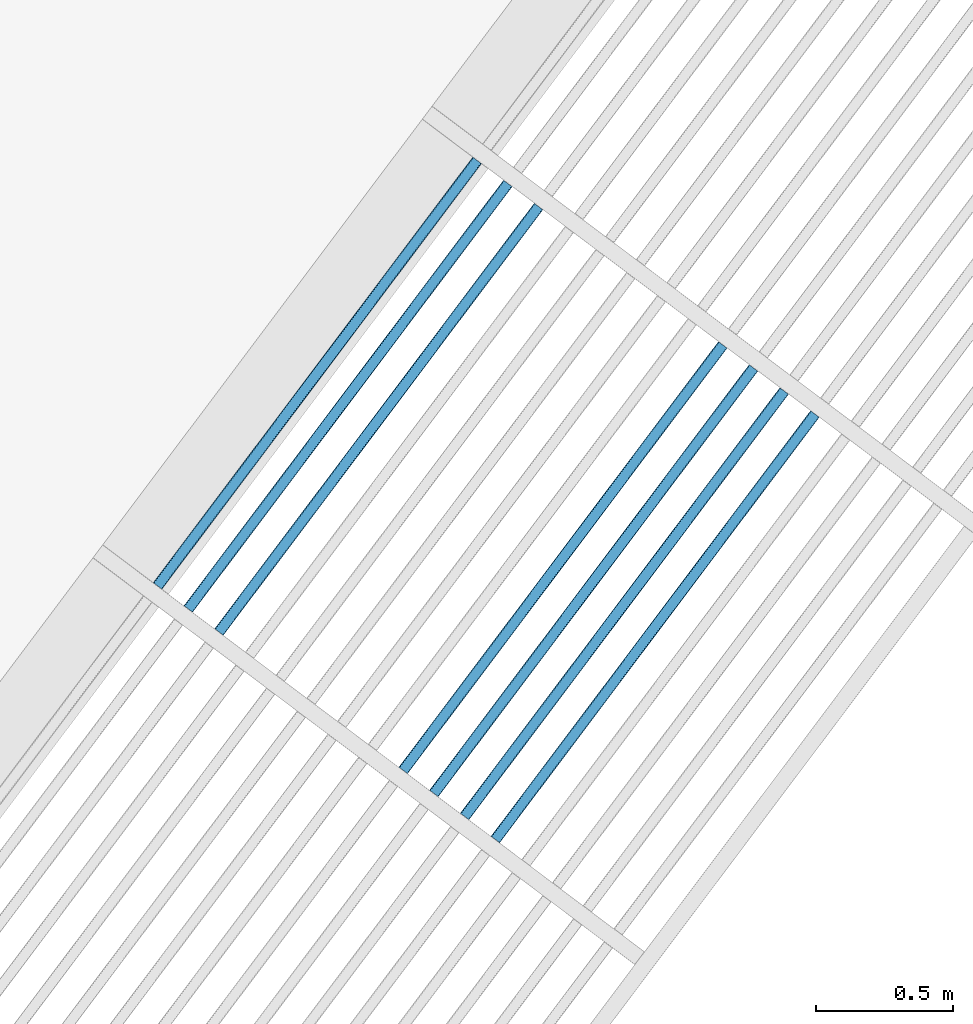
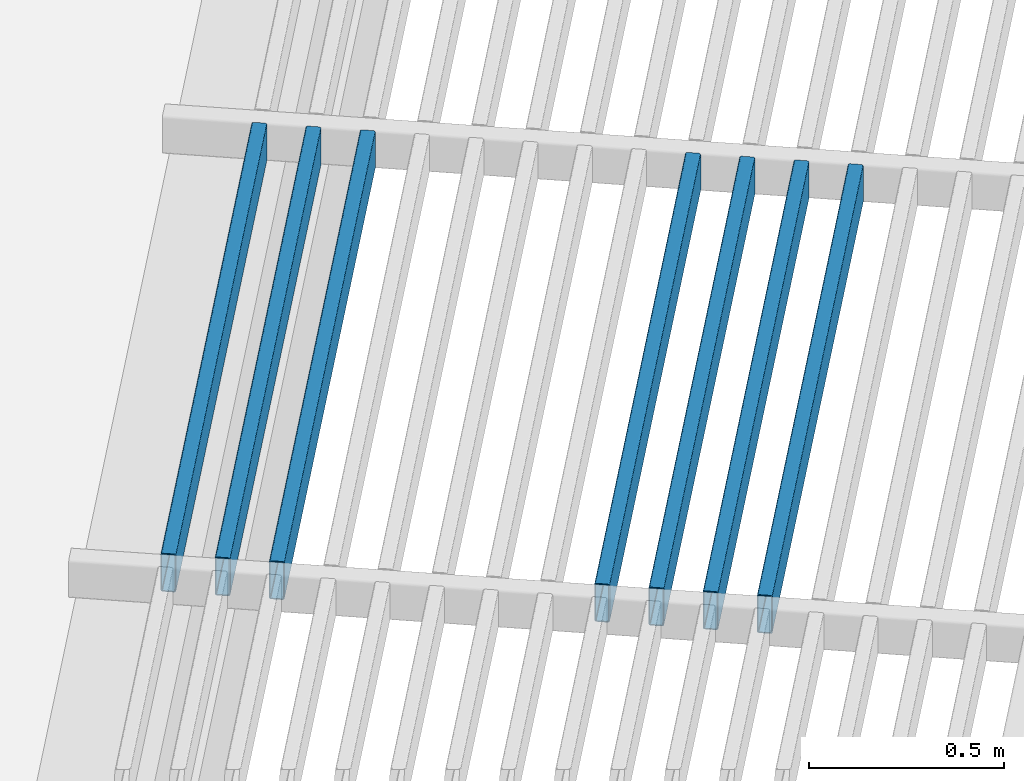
# One storey, part 30 of 95: 7 beams.
"""IFC2X3 building model written with IfcOpenShell, lengths in metres."""

from ifc_helpers import new_model, entity, si_unit, converted_unit, derived_unit, direction, frame, frame_2d, origin, place, context, subcontext, project, spatial, polyline, circle_curve, parameter, trimmed, segment, composite_curve, outline, extrude, material, type_object, element, save


model = new_model("IFC2X3")

# Units and contexts
model_context = context("Model", 3, precision=1e-05, world=origin(), true_north=direction((6.123031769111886e-17, 1.0)))
body_context = subcontext(model_context, "Body", "Model", "MODEL_VIEW")
ifc_project = project(units=[si_unit("LENGTHUNIT", "METRE"), si_unit("AREAUNIT", "SQUARE_METRE"), si_unit("VOLUMEUNIT", "CUBIC_METRE"), converted_unit("PLANEANGLEUNIT", "DEGREE", entity("IfcRatioMeasure", 0.017453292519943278), si_unit("PLANEANGLEUNIT", "RADIAN"), dimensions=[0, 0, 0, 0, 0, 0, 0]), si_unit("MASSUNIT", "GRAM", prefix="KILO"), derived_unit("MASSDENSITYUNIT", [(si_unit("MASSUNIT", "GRAM", prefix="KILO"), 1), (si_unit("LENGTHUNIT", "METRE"), -3)]), derived_unit("IONCONCENTRATIONUNIT", [(si_unit("MASSUNIT", "GRAM", prefix="KILO"), 1), (si_unit("LENGTHUNIT", "METRE"), -3)]), derived_unit("MOMENTOFINERTIAUNIT", [(si_unit("LENGTHUNIT", "METRE"), 4)]), si_unit("TIMEUNIT", "SECOND"), si_unit("FREQUENCYUNIT", "HERTZ"), si_unit("THERMODYNAMICTEMPERATUREUNIT", "DEGREE_CELSIUS"), derived_unit("THERMALTRANSMITTANCEUNIT", [(si_unit("MASSUNIT", "GRAM", prefix="KILO"), 1), (si_unit("THERMODYNAMICTEMPERATUREUNIT", "KELVIN"), -1), (si_unit("TIMEUNIT", "SECOND"), -3)]), derived_unit("THERMALCONDUCTANCEUNIT", [(si_unit("MASSUNIT", "GRAM", prefix="KILO"), 1), (si_unit("THERMODYNAMICTEMPERATUREUNIT", "KELVIN"), -1), (si_unit("TIMEUNIT", "SECOND"), -3), (si_unit("LENGTHUNIT", "METRE"), 1)]), derived_unit("VOLUMETRICFLOWRATEUNIT", [(si_unit("LENGTHUNIT", "METRE"), 3), (si_unit("TIMEUNIT", "SECOND"), -1)]), derived_unit("MASSFLOWRATEUNIT", [(si_unit("MASSUNIT", "GRAM", prefix="KILO"), 1), (si_unit("TIMEUNIT", "SECOND"), -1)]), derived_unit("ROTATIONALFREQUENCYUNIT", [(si_unit("TIMEUNIT", "SECOND"), -1)]), si_unit("ELECTRICCURRENTUNIT", "AMPERE"), si_unit("ELECTRICVOLTAGEUNIT", "VOLT"), si_unit("POWERUNIT", "WATT"), si_unit("FORCEUNIT", "NEWTON", prefix="KILO"), si_unit("ILLUMINANCEUNIT", "LUX"), si_unit("LUMINOUSFLUXUNIT", "LUMEN"), si_unit("LUMINOUSINTENSITYUNIT", "CANDELA"), derived_unit("USERDEFINED", [(si_unit("MASSUNIT", "GRAM", prefix="KILO"), -1), (si_unit("LENGTHUNIT", "METRE"), -2), (si_unit("TIMEUNIT", "SECOND"), 3), (si_unit("LUMINOUSFLUXUNIT", "LUMEN"), 1)]), derived_unit("USERDEFINED", [(si_unit("MASSUNIT", "GRAM", prefix="KILO"), 1), (si_unit("TIMEUNIT", "SECOND"), -3), (si_unit("LENGTHUNIT", "METRE"), 3), (si_unit("ELECTRICCURRENTUNIT", "AMPERE"), -2)]), derived_unit("SOUNDPOWERUNIT", [(si_unit("MASSUNIT", "GRAM", prefix="KILO"), 1), (si_unit("TIMEUNIT", "SECOND"), -3), (si_unit("LENGTHUNIT", "METRE"), 2)]), derived_unit("SOUNDPRESSUREUNIT", [(si_unit("MASSUNIT", "GRAM", prefix="KILO"), 1), (si_unit("LENGTHUNIT", "METRE"), -1), (si_unit("TIMEUNIT", "SECOND"), -2)]), derived_unit("LINEARVELOCITYUNIT", [(si_unit("LENGTHUNIT", "METRE"), 1), (si_unit("TIMEUNIT", "SECOND"), -1)]), si_unit("PRESSUREUNIT", "PASCAL"), derived_unit("USERDEFINED", [(si_unit("MASSUNIT", "GRAM", prefix="KILO"), 1), (si_unit("LENGTHUNIT", "METRE"), -2), (si_unit("TIMEUNIT", "SECOND"), -2)]), derived_unit("LINEARFORCEUNIT", [(si_unit("MASSUNIT", "GRAM", prefix="KILO"), 1), (si_unit("TIMEUNIT", "SECOND"), -2)]), derived_unit("PLANARFORCEUNIT", [(si_unit("MASSUNIT", "GRAM", prefix="KILO"), 1), (si_unit("LENGTHUNIT", "METRE"), -1), (si_unit("TIMEUNIT", "SECOND"), -2)]), derived_unit("SPECIFICHEATCAPACITYUNIT", [(si_unit("THERMODYNAMICTEMPERATUREUNIT", "KELVIN"), -1), (si_unit("LENGTHUNIT", "METRE"), 2), (si_unit("TIMEUNIT", "SECOND"), -2)]), derived_unit("HEATINGVALUEUNIT", [(si_unit("LENGTHUNIT", "METRE"), 2), (si_unit("TIMEUNIT", "SECOND"), -2)]), derived_unit("VAPORPERMEABILITYUNIT", [(si_unit("LENGTHUNIT", "METRE"), -1), (si_unit("TIMEUNIT", "SECOND"), 1)]), derived_unit("DYNAMICVISCOSITYUNIT", [(si_unit("MASSUNIT", "GRAM", prefix="KILO"), 1), (si_unit("TIMEUNIT", "SECOND"), -1), (si_unit("LENGTHUNIT", "METRE"), -1)]), derived_unit("THERMALEXPANSIONCOEFFICIENTUNIT", [(si_unit("THERMODYNAMICTEMPERATUREUNIT", "KELVIN"), -1)]), derived_unit("MODULUSOFELASTICITYUNIT", [(si_unit("MASSUNIT", "GRAM", prefix="KILO"), 1), (si_unit("LENGTHUNIT", "METRE"), -1), (si_unit("TIMEUNIT", "SECOND"), -2)]), derived_unit("ISOTHERMALMOISTURECAPACITYUNIT", [(si_unit("LENGTHUNIT", "METRE"), 3), (si_unit("MASSUNIT", "GRAM", prefix="KILO"), -1)]), derived_unit("MOISTUREDIFFUSIVITYUNIT", [(si_unit("TIMEUNIT", "SECOND"), -1), (si_unit("LENGTHUNIT", "METRE"), 2)])], contexts=[model_context])

# Site, building, storey
site_placement = place(None, origin())
site = spatial("IfcSite", under=ifc_project, at=site_placement, Name="Default", CompositionType="ELEMENT")
building_placement = place(site_placement, frame((0.0, 0.0, 235.0), z_axis=(0.0, 0.0, 1.0), x_axis=(-0.7996477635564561, 0.6004693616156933, 0.0)))
building = spatial("IfcBuilding", under=site, at=building_placement, CompositionType="ELEMENT")
storey_placement = place(building_placement, frame((0.0, 0.0, 3.400000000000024)))
storey = spatial("IfcBuildingStorey", under=building, at=storey_placement, Name="PC- Coberta STR", CompositionType="ELEMENT", Elevation=3.400000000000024)

# Beams
ifc_material = material(Name="_Acer- STR")
beam_type = type_object("IfcBeamType", Name="STR- V- Acer- RHS- Rectangular- T1:120x40RHS -", PredefinedType="NOTDEFINED")
beam_1_placement = place(storey_placement, frame((28.373552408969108, -32.38519175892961, 0.49840472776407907), z_axis=(0.0, 0.0, 1.0), x_axis=(0.0, -1.0, 0.0)))
element("IfcBeam", 1, at=beam_1_placement, inside=storey, type_object=beam_type, material=ifc_material, Name="STR- V- Acer- RHS- Rectangular- T1:120x40RHS -", ObjectType="STR- V- Acer- RHS- Rectangular- T1:120x40RHS -", context=body_context, shape_type="SweptSolid", body=[
    extrude(outline(composite_curve([segment(trimmed(circle_curve(frame_2d((-0.013999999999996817, -0.05400000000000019), x_axis=(1.0, 0.0)), 0.006), [parameter(180.0000000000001)], [parameter(269.99999999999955)], True, "PARAMETER"), True, "CONTINUOUS"), segment(polyline([(-0.014000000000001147, -0.06000000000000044), (0.01400000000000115, -0.06000000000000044)]), True, "CONTINUOUS"), segment(trimmed(circle_curve(frame_2d((0.01400000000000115, -0.05400000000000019), x_axis=(1.0, 0.0)), 0.006), [parameter(269.99999999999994)], [parameter(1.0177774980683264e-13)], True, "PARAMETER"), True, "CONTINUOUS"), segment(polyline([(0.019999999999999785, -0.05400000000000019), (0.019999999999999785, 0.05399999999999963)]), True, "CONTINUOUS"), segment(trimmed(circle_curve(frame_2d((0.01400000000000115, 0.05399999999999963), x_axis=(1.0, 0.0)), 0.006), [parameter(359.9999999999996)], [parameter(89.99999999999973)], True, "PARAMETER"), True, "CONTINUOUS"), segment(polyline([(0.01400000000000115, 0.05999999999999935), (-0.014000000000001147, 0.05999999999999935)]), True, "CONTINUOUS"), segment(trimmed(circle_curve(frame_2d((-0.013999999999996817, 0.05399999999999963), x_axis=(1.0, 0.0)), 0.006), [parameter(90.00000000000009)], [parameter(180.00000000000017)], True, "PARAMETER"), True, "CONTINUOUS"), segment(polyline([(-0.019999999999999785, 0.05399999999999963), (-0.019999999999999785, -0.05400000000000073)]), True, "CONTINUOUS")], self_intersect=False), holes=[composite_curve([segment(polyline([(0.01400000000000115, -0.05700000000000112), (-0.014000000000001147, -0.05700000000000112)]), True, "CONTINUOUS"), segment(trimmed(circle_curve(frame_2d((-0.013999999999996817, -0.05400000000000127), x_axis=(1.0, 0.0)), 0.003), [parameter(179.99999999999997)], [parameter(269.9999999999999)], True, "PARAMETER"), False, "CONTINUOUS"), segment(polyline([(-0.01700000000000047, -0.05400000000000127), (-0.01700000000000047, 0.05399999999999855)]), True, "CONTINUOUS"), segment(trimmed(circle_curve(frame_2d((-0.013999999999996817, 0.05399999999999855), x_axis=(1.0, 0.0)), 0.003), [parameter(90.00000000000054)], [parameter(180.0000000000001)], True, "PARAMETER"), False, "CONTINUOUS"), segment(polyline([(-0.014000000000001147, 0.05699999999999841), (0.01400000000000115, 0.05699999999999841)]), True, "CONTINUOUS"), segment(trimmed(circle_curve(frame_2d((0.01400000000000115, 0.05399999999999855), x_axis=(1.0, 0.0)), 0.003), [parameter(0.0)], [parameter(90.00000000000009)], True, "PARAMETER"), False, "CONTINUOUS"), segment(polyline([(0.017000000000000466, 0.05399999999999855), (0.017000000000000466, -0.05400000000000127)]), True, "CONTINUOUS"), segment(trimmed(circle_curve(frame_2d((0.01400000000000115, -0.05400000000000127), x_axis=(1.0, 0.0)), 0.003), [parameter(270.00000000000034)], [parameter(3.053332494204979e-13)], True, "PARAMETER"), False, "CONTINUOUS")], self_intersect=False)]), frame((-1.9399999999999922, 0.021595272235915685, 0.06159527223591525), z_axis=(1.0, 0.0, 0.0), x_axis=(0.0, -1.0, 0.0)), (0.0, 0.0, 1.0), 1.9399999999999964),
])
beam_2_placement = place(storey_placement, frame((28.233552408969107, -32.38519175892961, 0.49840472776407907), z_axis=(0.0, 0.0, 1.0), x_axis=(0.0, -1.0, 0.0)))
element("IfcBeam", 2, at=beam_2_placement, inside=storey, type_object=beam_type, material=ifc_material, Name="STR- V- Acer- RHS- Rectangular- T1:120x40RHS -", ObjectType="STR- V- Acer- RHS- Rectangular- T1:120x40RHS -", context=body_context, shape_type="SweptSolid", body=[
    extrude(outline(composite_curve([segment(trimmed(circle_curve(frame_2d((-0.013999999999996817, -0.05400000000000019), x_axis=(1.0, 0.0)), 0.006), [parameter(180.0000000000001)], [parameter(269.99999999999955)], True, "PARAMETER"), True, "CONTINUOUS"), segment(polyline([(-0.014000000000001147, -0.06000000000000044), (0.01400000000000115, -0.06000000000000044)]), True, "CONTINUOUS"), segment(trimmed(circle_curve(frame_2d((0.01400000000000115, -0.05400000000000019), x_axis=(1.0, 0.0)), 0.006), [parameter(269.99999999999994)], [parameter(1.0177774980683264e-13)], True, "PARAMETER"), True, "CONTINUOUS"), segment(polyline([(0.019999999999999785, -0.05400000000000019), (0.019999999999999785, 0.05399999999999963)]), True, "CONTINUOUS"), segment(trimmed(circle_curve(frame_2d((0.01400000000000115, 0.05399999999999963), x_axis=(1.0, 0.0)), 0.006), [parameter(359.9999999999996)], [parameter(89.99999999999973)], True, "PARAMETER"), True, "CONTINUOUS"), segment(polyline([(0.01400000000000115, 0.05999999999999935), (-0.014000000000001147, 0.05999999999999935)]), True, "CONTINUOUS"), segment(trimmed(circle_curve(frame_2d((-0.013999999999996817, 0.05399999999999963), x_axis=(1.0, 0.0)), 0.006), [parameter(90.00000000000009)], [parameter(180.00000000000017)], True, "PARAMETER"), True, "CONTINUOUS"), segment(polyline([(-0.019999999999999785, 0.05399999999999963), (-0.019999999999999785, -0.05400000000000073)]), True, "CONTINUOUS")], self_intersect=False), holes=[composite_curve([segment(polyline([(0.01400000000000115, -0.05700000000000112), (-0.014000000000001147, -0.05700000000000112)]), True, "CONTINUOUS"), segment(trimmed(circle_curve(frame_2d((-0.013999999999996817, -0.05400000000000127), x_axis=(1.0, 0.0)), 0.003), [parameter(179.99999999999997)], [parameter(269.9999999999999)], True, "PARAMETER"), False, "CONTINUOUS"), segment(polyline([(-0.01700000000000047, -0.05400000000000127), (-0.01700000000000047, 0.05399999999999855)]), True, "CONTINUOUS"), segment(trimmed(circle_curve(frame_2d((-0.013999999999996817, 0.05399999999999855), x_axis=(1.0, 0.0)), 0.003), [parameter(90.00000000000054)], [parameter(180.0000000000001)], True, "PARAMETER"), False, "CONTINUOUS"), segment(polyline([(-0.014000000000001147, 0.05699999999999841), (0.01400000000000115, 0.05699999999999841)]), True, "CONTINUOUS"), segment(trimmed(circle_curve(frame_2d((0.01400000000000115, 0.05399999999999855), x_axis=(1.0, 0.0)), 0.003), [parameter(0.0)], [parameter(90.00000000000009)], True, "PARAMETER"), False, "CONTINUOUS"), segment(polyline([(0.017000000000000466, 0.05399999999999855), (0.017000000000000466, -0.05400000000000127)]), True, "CONTINUOUS"), segment(trimmed(circle_curve(frame_2d((0.01400000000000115, -0.05400000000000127), x_axis=(1.0, 0.0)), 0.003), [parameter(270.00000000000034)], [parameter(3.053332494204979e-13)], True, "PARAMETER"), False, "CONTINUOUS")], self_intersect=False)]), frame((-1.9399999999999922, 0.021595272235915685, 0.06159527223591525), z_axis=(1.0, 0.0, 0.0), x_axis=(0.0, -1.0, 0.0)), (0.0, 0.0, 1.0), 1.9399999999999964),
])
beam_3_placement = place(storey_placement, frame((28.09355240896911, -32.38519175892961, 0.49840472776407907), z_axis=(0.0, 0.0, 1.0), x_axis=(0.0, -1.0, 0.0)))
element("IfcBeam", 3, at=beam_3_placement, inside=storey, type_object=beam_type, material=ifc_material, Name="STR- V- Acer- RHS- Rectangular- T1:120x40RHS -", ObjectType="STR- V- Acer- RHS- Rectangular- T1:120x40RHS -", context=body_context, shape_type="SweptSolid", body=[
    extrude(outline(composite_curve([segment(trimmed(circle_curve(frame_2d((-0.01400000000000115, -0.05400000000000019), x_axis=(1.0, 0.0)), 0.006), [parameter(180.0000000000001)], [parameter(269.99999999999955)], True, "PARAMETER"), True, "CONTINUOUS"), segment(polyline([(-0.01400000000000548, -0.06000000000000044), (0.013999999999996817, -0.06000000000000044)]), True, "CONTINUOUS"), segment(trimmed(circle_curve(frame_2d((0.013999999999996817, -0.05400000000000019), x_axis=(1.0, 0.0)), 0.006), [parameter(269.99999999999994)], [parameter(1.0177774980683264e-13)], True, "PARAMETER"), True, "CONTINUOUS"), segment(polyline([(0.019999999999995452, -0.05400000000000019), (0.019999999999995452, 0.05399999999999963)]), True, "CONTINUOUS"), segment(trimmed(circle_curve(frame_2d((0.013999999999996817, 0.05399999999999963), x_axis=(1.0, 0.0)), 0.006), [parameter(359.9999999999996)], [parameter(89.99999999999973)], True, "PARAMETER"), True, "CONTINUOUS"), segment(polyline([(0.013999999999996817, 0.05999999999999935), (-0.01400000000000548, 0.05999999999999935)]), True, "CONTINUOUS"), segment(trimmed(circle_curve(frame_2d((-0.01400000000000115, 0.05399999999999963), x_axis=(1.0, 0.0)), 0.006), [parameter(90.00000000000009)], [parameter(180.00000000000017)], True, "PARAMETER"), True, "CONTINUOUS"), segment(polyline([(-0.02000000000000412, 0.05399999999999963), (-0.02000000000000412, -0.05400000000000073)]), True, "CONTINUOUS")], self_intersect=False), holes=[composite_curve([segment(polyline([(0.013999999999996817, -0.05700000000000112), (-0.01400000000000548, -0.05700000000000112)]), True, "CONTINUOUS"), segment(trimmed(circle_curve(frame_2d((-0.01400000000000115, -0.05400000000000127), x_axis=(1.0, 0.0)), 0.003), [parameter(179.99999999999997)], [parameter(269.9999999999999)], True, "PARAMETER"), False, "CONTINUOUS"), segment(polyline([(-0.017000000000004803, -0.05400000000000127), (-0.017000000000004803, 0.05399999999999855)]), True, "CONTINUOUS"), segment(trimmed(circle_curve(frame_2d((-0.01400000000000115, 0.05399999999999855), x_axis=(1.0, 0.0)), 0.003), [parameter(90.00000000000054)], [parameter(180.0000000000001)], True, "PARAMETER"), False, "CONTINUOUS"), segment(polyline([(-0.01400000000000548, 0.05699999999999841), (0.013999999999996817, 0.05699999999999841)]), True, "CONTINUOUS"), segment(trimmed(circle_curve(frame_2d((0.013999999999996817, 0.05399999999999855), x_axis=(1.0, 0.0)), 0.003), [parameter(0.0)], [parameter(90.00000000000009)], True, "PARAMETER"), False, "CONTINUOUS"), segment(polyline([(0.016999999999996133, 0.05399999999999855), (0.016999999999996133, -0.05400000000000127)]), True, "CONTINUOUS"), segment(trimmed(circle_curve(frame_2d((0.013999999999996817, -0.05400000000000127), x_axis=(1.0, 0.0)), 0.003), [parameter(270.00000000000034)], [parameter(3.053332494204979e-13)], True, "PARAMETER"), False, "CONTINUOUS")], self_intersect=False)]), frame((-1.9399999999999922, 0.02159527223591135, 0.06159527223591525), z_axis=(1.0, 0.0, 0.0), x_axis=(0.0, -1.0, 0.0)), (0.0, 0.0, 1.0), 1.9399999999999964),
])
beam_4_placement = place(storey_placement, frame((27.25355240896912, -32.38519175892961, 0.49840472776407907), z_axis=(0.0, 0.0, 1.0), x_axis=(0.0, -1.0, 0.0)))
element("IfcBeam", 4, at=beam_4_placement, inside=storey, type_object=beam_type, material=ifc_material, Name="STR- V- Acer- RHS- Rectangular- T1:120x40RHS -", ObjectType="STR- V- Acer- RHS- Rectangular- T1:120x40RHS -", context=body_context, shape_type="SweptSolid", body=[
    extrude(outline(composite_curve([segment(trimmed(circle_curve(frame_2d((-0.013999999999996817, -0.05400000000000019), x_axis=(1.0, 0.0)), 0.006), [parameter(180.0000000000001)], [parameter(269.99999999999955)], True, "PARAMETER"), True, "CONTINUOUS"), segment(polyline([(-0.014000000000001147, -0.06000000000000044), (0.01400000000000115, -0.06000000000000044)]), True, "CONTINUOUS"), segment(trimmed(circle_curve(frame_2d((0.01400000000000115, -0.05400000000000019), x_axis=(1.0, 0.0)), 0.006), [parameter(269.99999999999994)], [parameter(1.0177774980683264e-13)], True, "PARAMETER"), True, "CONTINUOUS"), segment(polyline([(0.019999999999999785, -0.05400000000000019), (0.019999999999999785, 0.05399999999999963)]), True, "CONTINUOUS"), segment(trimmed(circle_curve(frame_2d((0.01400000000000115, 0.05399999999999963), x_axis=(1.0, 0.0)), 0.006), [parameter(359.9999999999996)], [parameter(89.99999999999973)], True, "PARAMETER"), True, "CONTINUOUS"), segment(polyline([(0.01400000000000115, 0.05999999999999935), (-0.014000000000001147, 0.05999999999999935)]), True, "CONTINUOUS"), segment(trimmed(circle_curve(frame_2d((-0.013999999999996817, 0.05399999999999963), x_axis=(1.0, 0.0)), 0.006), [parameter(90.00000000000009)], [parameter(180.00000000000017)], True, "PARAMETER"), True, "CONTINUOUS"), segment(polyline([(-0.019999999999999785, 0.05399999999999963), (-0.019999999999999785, -0.05400000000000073)]), True, "CONTINUOUS")], self_intersect=False), holes=[composite_curve([segment(polyline([(0.01400000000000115, -0.05700000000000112), (-0.014000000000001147, -0.05700000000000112)]), True, "CONTINUOUS"), segment(trimmed(circle_curve(frame_2d((-0.013999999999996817, -0.05400000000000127), x_axis=(1.0, 0.0)), 0.003), [parameter(179.99999999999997)], [parameter(269.9999999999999)], True, "PARAMETER"), False, "CONTINUOUS"), segment(polyline([(-0.01700000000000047, -0.05400000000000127), (-0.01700000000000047, 0.05399999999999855)]), True, "CONTINUOUS"), segment(trimmed(circle_curve(frame_2d((-0.013999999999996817, 0.05399999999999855), x_axis=(1.0, 0.0)), 0.003), [parameter(90.00000000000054)], [parameter(180.0000000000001)], True, "PARAMETER"), False, "CONTINUOUS"), segment(polyline([(-0.014000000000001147, 0.05699999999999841), (0.01400000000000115, 0.05699999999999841)]), True, "CONTINUOUS"), segment(trimmed(circle_curve(frame_2d((0.01400000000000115, 0.05399999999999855), x_axis=(1.0, 0.0)), 0.003), [parameter(0.0)], [parameter(90.00000000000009)], True, "PARAMETER"), False, "CONTINUOUS"), segment(polyline([(0.017000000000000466, 0.05399999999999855), (0.017000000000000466, -0.05400000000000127)]), True, "CONTINUOUS"), segment(trimmed(circle_curve(frame_2d((0.01400000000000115, -0.05400000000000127), x_axis=(1.0, 0.0)), 0.003), [parameter(270.00000000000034)], [parameter(3.053332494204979e-13)], True, "PARAMETER"), False, "CONTINUOUS")], self_intersect=False)]), frame((-1.9399999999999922, 0.021595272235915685, 0.06159527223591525), z_axis=(1.0, 0.0, 0.0), x_axis=(0.0, -1.0, 0.0)), (0.0, 0.0, 1.0), 1.9399999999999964),
])
beam_5_placement = place(storey_placement, frame((27.11355240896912, -32.38519175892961, 0.49840472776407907), z_axis=(0.0, 0.0, 1.0), x_axis=(0.0, -1.0, 0.0)))
element("IfcBeam", 5, at=beam_5_placement, inside=storey, type_object=beam_type, material=ifc_material, Name="STR- V- Acer- RHS- Rectangular- T1:120x40RHS -", ObjectType="STR- V- Acer- RHS- Rectangular- T1:120x40RHS -", context=body_context, shape_type="SweptSolid", body=[
    extrude(outline(composite_curve([segment(trimmed(circle_curve(frame_2d((-0.013999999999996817, -0.05400000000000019), x_axis=(1.0, 0.0)), 0.006), [parameter(180.0000000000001)], [parameter(269.99999999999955)], True, "PARAMETER"), True, "CONTINUOUS"), segment(polyline([(-0.014000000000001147, -0.06000000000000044), (0.01400000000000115, -0.06000000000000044)]), True, "CONTINUOUS"), segment(trimmed(circle_curve(frame_2d((0.01400000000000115, -0.05400000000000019), x_axis=(1.0, 0.0)), 0.006), [parameter(269.99999999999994)], [parameter(1.0177774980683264e-13)], True, "PARAMETER"), True, "CONTINUOUS"), segment(polyline([(0.019999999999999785, -0.05400000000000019), (0.019999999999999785, 0.05399999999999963)]), True, "CONTINUOUS"), segment(trimmed(circle_curve(frame_2d((0.01400000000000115, 0.05399999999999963), x_axis=(1.0, 0.0)), 0.006), [parameter(359.9999999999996)], [parameter(89.99999999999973)], True, "PARAMETER"), True, "CONTINUOUS"), segment(polyline([(0.01400000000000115, 0.05999999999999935), (-0.014000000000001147, 0.05999999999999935)]), True, "CONTINUOUS"), segment(trimmed(circle_curve(frame_2d((-0.013999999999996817, 0.05399999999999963), x_axis=(1.0, 0.0)), 0.006), [parameter(90.00000000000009)], [parameter(180.00000000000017)], True, "PARAMETER"), True, "CONTINUOUS"), segment(polyline([(-0.019999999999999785, 0.05399999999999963), (-0.019999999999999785, -0.05400000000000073)]), True, "CONTINUOUS")], self_intersect=False), holes=[composite_curve([segment(polyline([(0.01400000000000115, -0.05700000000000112), (-0.014000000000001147, -0.05700000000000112)]), True, "CONTINUOUS"), segment(trimmed(circle_curve(frame_2d((-0.013999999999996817, -0.05400000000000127), x_axis=(1.0, 0.0)), 0.003), [parameter(179.99999999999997)], [parameter(269.9999999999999)], True, "PARAMETER"), False, "CONTINUOUS"), segment(polyline([(-0.01700000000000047, -0.05400000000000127), (-0.01700000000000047, 0.05399999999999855)]), True, "CONTINUOUS"), segment(trimmed(circle_curve(frame_2d((-0.013999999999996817, 0.05399999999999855), x_axis=(1.0, 0.0)), 0.003), [parameter(90.00000000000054)], [parameter(180.0000000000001)], True, "PARAMETER"), False, "CONTINUOUS"), segment(polyline([(-0.014000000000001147, 0.05699999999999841), (0.01400000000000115, 0.05699999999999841)]), True, "CONTINUOUS"), segment(trimmed(circle_curve(frame_2d((0.01400000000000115, 0.05399999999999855), x_axis=(1.0, 0.0)), 0.003), [parameter(0.0)], [parameter(90.00000000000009)], True, "PARAMETER"), False, "CONTINUOUS"), segment(polyline([(0.017000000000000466, 0.05399999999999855), (0.017000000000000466, -0.05400000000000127)]), True, "CONTINUOUS"), segment(trimmed(circle_curve(frame_2d((0.01400000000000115, -0.05400000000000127), x_axis=(1.0, 0.0)), 0.003), [parameter(270.00000000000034)], [parameter(3.053332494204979e-13)], True, "PARAMETER"), False, "CONTINUOUS")], self_intersect=False)]), frame((-1.9399999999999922, 0.021595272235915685, 0.06159527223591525), z_axis=(1.0, 0.0, 0.0), x_axis=(0.0, -1.0, 0.0)), (0.0, 0.0, 1.0), 1.9399999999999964),
])
beam_6_placement = place(storey_placement, frame((26.973552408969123, -32.38519175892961, 0.49840472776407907), z_axis=(0.0, 0.0, 1.0), x_axis=(0.0, -1.0, 0.0)))
element("IfcBeam", 6, at=beam_6_placement, inside=storey, type_object=beam_type, material=ifc_material, Name="STR- V- Acer- RHS- Rectangular- T1:120x40RHS -", ObjectType="STR- V- Acer- RHS- Rectangular- T1:120x40RHS -", context=body_context, shape_type="SweptSolid", body=[
    extrude(outline(composite_curve([segment(trimmed(circle_curve(frame_2d((-0.01400000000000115, -0.05400000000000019), x_axis=(1.0, 0.0)), 0.006), [parameter(180.0000000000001)], [parameter(269.99999999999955)], True, "PARAMETER"), True, "CONTINUOUS"), segment(polyline([(-0.01400000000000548, -0.06000000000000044), (0.013999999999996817, -0.06000000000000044)]), True, "CONTINUOUS"), segment(trimmed(circle_curve(frame_2d((0.013999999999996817, -0.05400000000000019), x_axis=(1.0, 0.0)), 0.006), [parameter(269.99999999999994)], [parameter(1.0177774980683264e-13)], True, "PARAMETER"), True, "CONTINUOUS"), segment(polyline([(0.019999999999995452, -0.05400000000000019), (0.019999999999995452, 0.05399999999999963)]), True, "CONTINUOUS"), segment(trimmed(circle_curve(frame_2d((0.013999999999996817, 0.05399999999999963), x_axis=(1.0, 0.0)), 0.006), [parameter(359.9999999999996)], [parameter(89.99999999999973)], True, "PARAMETER"), True, "CONTINUOUS"), segment(polyline([(0.013999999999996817, 0.05999999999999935), (-0.01400000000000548, 0.05999999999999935)]), True, "CONTINUOUS"), segment(trimmed(circle_curve(frame_2d((-0.01400000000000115, 0.05399999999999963), x_axis=(1.0, 0.0)), 0.006), [parameter(90.00000000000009)], [parameter(180.00000000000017)], True, "PARAMETER"), True, "CONTINUOUS"), segment(polyline([(-0.02000000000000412, 0.05399999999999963), (-0.02000000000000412, -0.05400000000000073)]), True, "CONTINUOUS")], self_intersect=False), holes=[composite_curve([segment(polyline([(0.013999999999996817, -0.05700000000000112), (-0.01400000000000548, -0.05700000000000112)]), True, "CONTINUOUS"), segment(trimmed(circle_curve(frame_2d((-0.01400000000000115, -0.05400000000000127), x_axis=(1.0, 0.0)), 0.003), [parameter(179.99999999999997)], [parameter(269.9999999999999)], True, "PARAMETER"), False, "CONTINUOUS"), segment(polyline([(-0.017000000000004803, -0.05400000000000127), (-0.017000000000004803, 0.05399999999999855)]), True, "CONTINUOUS"), segment(trimmed(circle_curve(frame_2d((-0.01400000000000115, 0.05399999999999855), x_axis=(1.0, 0.0)), 0.003), [parameter(90.00000000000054)], [parameter(180.0000000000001)], True, "PARAMETER"), False, "CONTINUOUS"), segment(polyline([(-0.01400000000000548, 0.05699999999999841), (0.013999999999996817, 0.05699999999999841)]), True, "CONTINUOUS"), segment(trimmed(circle_curve(frame_2d((0.013999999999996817, 0.05399999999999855), x_axis=(1.0, 0.0)), 0.003), [parameter(0.0)], [parameter(90.00000000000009)], True, "PARAMETER"), False, "CONTINUOUS"), segment(polyline([(0.016999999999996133, 0.05399999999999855), (0.016999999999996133, -0.05400000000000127)]), True, "CONTINUOUS"), segment(trimmed(circle_curve(frame_2d((0.013999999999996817, -0.05400000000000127), x_axis=(1.0, 0.0)), 0.003), [parameter(270.00000000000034)], [parameter(3.053332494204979e-13)], True, "PARAMETER"), False, "CONTINUOUS")], self_intersect=False)]), frame((-1.9399999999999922, 0.02159527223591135, 0.06159527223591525), z_axis=(1.0, 0.0, 0.0), x_axis=(0.0, -1.0, 0.0)), (0.0, 0.0, 1.0), 1.9399999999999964),
])
beam_7_placement = place(storey_placement, frame((26.833552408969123, -32.38519175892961, 0.49840472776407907), z_axis=(0.0, 0.0, 1.0), x_axis=(0.0, -1.0, 0.0)))
element("IfcBeam", 7, at=beam_7_placement, inside=storey, type_object=beam_type, material=ifc_material, Name="STR- V- Acer- RHS- Rectangular- T1:120x40RHS -", ObjectType="STR- V- Acer- RHS- Rectangular- T1:120x40RHS -", context=body_context, shape_type="SweptSolid", body=[
    extrude(outline(composite_curve([segment(trimmed(circle_curve(frame_2d((-0.01400000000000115, -0.05400000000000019), x_axis=(1.0, 0.0)), 0.006), [parameter(180.0000000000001)], [parameter(269.99999999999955)], True, "PARAMETER"), True, "CONTINUOUS"), segment(polyline([(-0.01400000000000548, -0.06000000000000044), (0.013999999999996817, -0.06000000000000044)]), True, "CONTINUOUS"), segment(trimmed(circle_curve(frame_2d((0.013999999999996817, -0.05400000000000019), x_axis=(1.0, 0.0)), 0.006), [parameter(269.99999999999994)], [parameter(1.0177774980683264e-13)], True, "PARAMETER"), True, "CONTINUOUS"), segment(polyline([(0.019999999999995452, -0.05400000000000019), (0.019999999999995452, 0.05399999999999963)]), True, "CONTINUOUS"), segment(trimmed(circle_curve(frame_2d((0.013999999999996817, 0.05399999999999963), x_axis=(1.0, 0.0)), 0.006), [parameter(359.9999999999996)], [parameter(89.99999999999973)], True, "PARAMETER"), True, "CONTINUOUS"), segment(polyline([(0.013999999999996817, 0.05999999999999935), (-0.01400000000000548, 0.05999999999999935)]), True, "CONTINUOUS"), segment(trimmed(circle_curve(frame_2d((-0.01400000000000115, 0.05399999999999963), x_axis=(1.0, 0.0)), 0.006), [parameter(90.00000000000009)], [parameter(180.00000000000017)], True, "PARAMETER"), True, "CONTINUOUS"), segment(polyline([(-0.02000000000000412, 0.05399999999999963), (-0.02000000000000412, -0.05400000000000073)]), True, "CONTINUOUS")], self_intersect=False), holes=[composite_curve([segment(polyline([(0.013999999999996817, -0.05700000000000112), (-0.01400000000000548, -0.05700000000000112)]), True, "CONTINUOUS"), segment(trimmed(circle_curve(frame_2d((-0.01400000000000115, -0.05400000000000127), x_axis=(1.0, 0.0)), 0.003), [parameter(179.99999999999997)], [parameter(269.9999999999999)], True, "PARAMETER"), False, "CONTINUOUS"), segment(polyline([(-0.017000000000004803, -0.05400000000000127), (-0.017000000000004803, 0.05399999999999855)]), True, "CONTINUOUS"), segment(trimmed(circle_curve(frame_2d((-0.01400000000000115, 0.05399999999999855), x_axis=(1.0, 0.0)), 0.003), [parameter(90.00000000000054)], [parameter(180.0000000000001)], True, "PARAMETER"), False, "CONTINUOUS"), segment(polyline([(-0.01400000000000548, 0.05699999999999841), (0.013999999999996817, 0.05699999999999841)]), True, "CONTINUOUS"), segment(trimmed(circle_curve(frame_2d((0.013999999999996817, 0.05399999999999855), x_axis=(1.0, 0.0)), 0.003), [parameter(0.0)], [parameter(90.00000000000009)], True, "PARAMETER"), False, "CONTINUOUS"), segment(polyline([(0.016999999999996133, 0.05399999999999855), (0.016999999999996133, -0.05400000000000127)]), True, "CONTINUOUS"), segment(trimmed(circle_curve(frame_2d((0.013999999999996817, -0.05400000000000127), x_axis=(1.0, 0.0)), 0.003), [parameter(270.00000000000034)], [parameter(3.053332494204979e-13)], True, "PARAMETER"), False, "CONTINUOUS")], self_intersect=False)]), frame((-1.9399999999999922, 0.02159527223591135, 0.06159527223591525), z_axis=(1.0, 0.0, 0.0), x_axis=(0.0, -1.0, 0.0)), (0.0, 0.0, 1.0), 1.9399999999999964),
])

save(model, "model.ifc")
